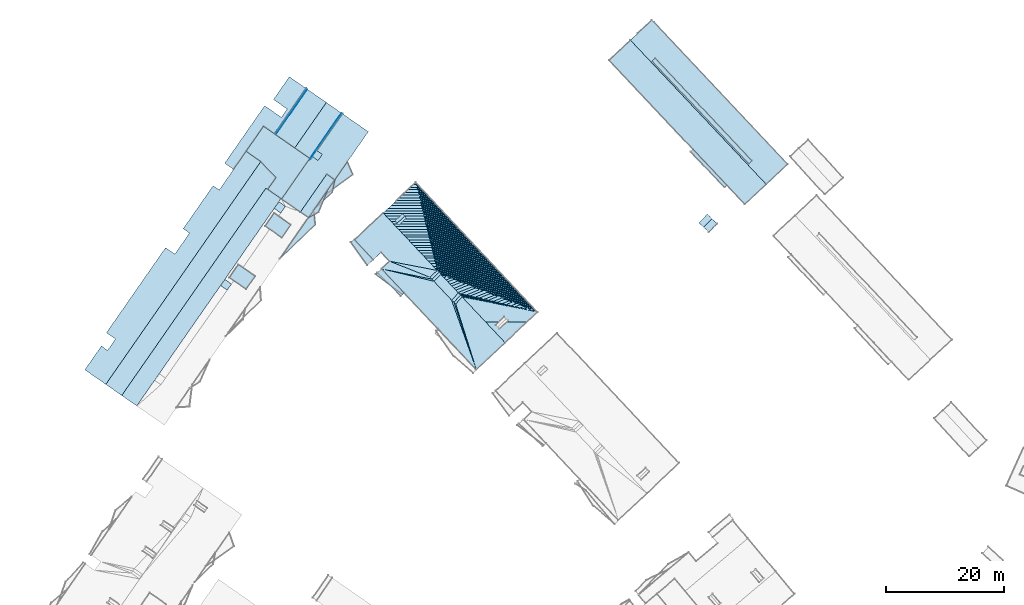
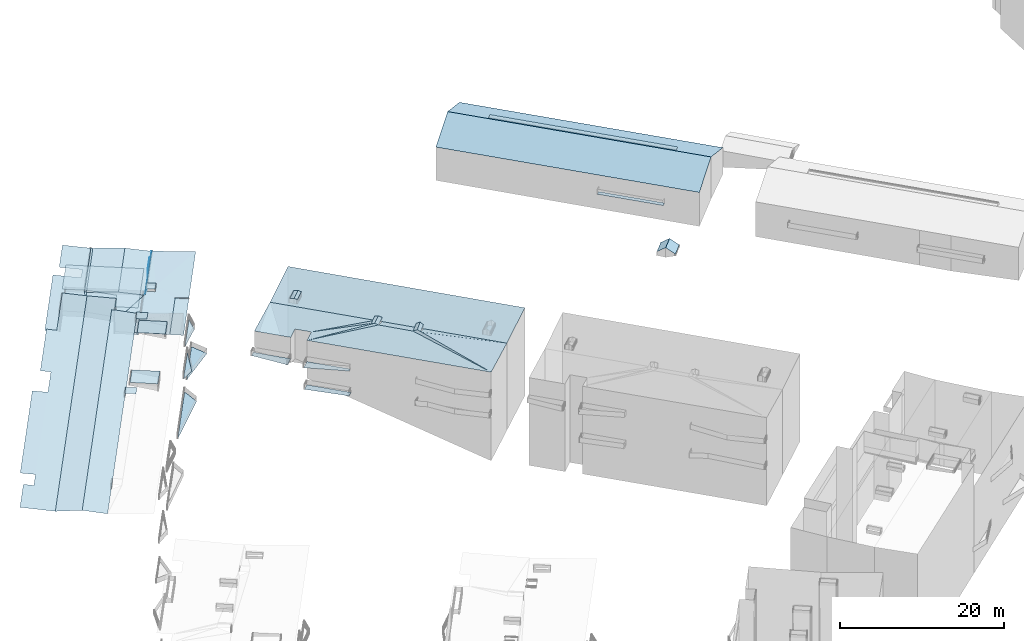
# Not in any storey, part 131 of 136: 73 roofs.
"""IFC4 building model written with IfcOpenShell, lengths in metres."""

from ifc_helpers import new_model, entity, si_unit, converted_unit, frame, origin, place, context, subcontext, project, spatial, face_set, surface_model, element, save


model = new_model("IFC4")

# Units and contexts
model_context = context("Model", 3, precision=1e-05, world=origin())
body_context = subcontext(model_context, "Body", "Model", "MODEL_VIEW")
ifc_project = project(units=[converted_unit("PLANEANGLEUNIT", "DEGREE", entity("IfcRatioMeasure", 0.0174532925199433), si_unit("PLANEANGLEUNIT", "RADIAN"), dimensions=[0, 0, 0, 0, 0, 0, 0]), si_unit("AREAUNIT", "SQUARE_METRE"), si_unit("LENGTHUNIT", "METRE")], contexts=[model_context])

# Site, building
site_placement = place(None, origin())
site = spatial("IfcSite", under=ifc_project, at=site_placement, Name="_site")
building_1_placement = place(site_placement, origin())
building_1 = spatial("IfcBuilding", under=site, at=building_1_placement, Name="_building")

# Roofs
roof_1_placement = place(building_1_placement, origin())
element("IfcRoof", 1, at=roof_1_placement, inside=building_1, Name="Roof", PredefinedType="NOTDEFINED", context=body_context, shape_type="SurfaceModel", body=[
    surface_model("IfcFaceBasedSurfaceModel", [(52.76, 147.43, 42.19), (52.36, 147.04, 42.19), (58.08, 140.97, 42.19), (58.49, 141.351, 42.19)], [face_set([[[0, 1, 2, 3]]])]),
])
roof_2_placement = place(building_1_placement, origin())
element("IfcRoof", 2, at=roof_2_placement, inside=building_1, Name="Roof", PredefinedType="NOTDEFINED", context=body_context, shape_type="SurfaceModel", body=[
    surface_model("IfcFaceBasedSurfaceModel", [(42.18, 165.851, 46.62), (38.59, 162.47, 44.65), (61.53, 138.12, 44.65), (65.12, 141.5, 46.62)], [face_set([[[0, 1, 2, 3]]])]),
])
roof_3_placement = place(building_1_placement, origin())
element("IfcRoof", 3, at=roof_3_placement, inside=building_1, Name="Roof", PredefinedType="NOTDEFINED", context=body_context, shape_type="SurfaceModel", body=[
    surface_model("IfcFaceBasedSurfaceModel", [(65.12, 141.5, 46.62), (68.75, 144.92, 44.65), (46.2, 168.86, 44.65), (45.81, 169.271, 44.65), (43.44, 167.04, 45.93), (42.18, 165.851, 46.62)], [face_set([[[0, 1, 2, 3, 4, 5]]])]),
])
roof_4_placement = place(building_1_placement, origin())
element("IfcRoof", 4, at=roof_4_placement, inside=building_1, Name="Roof", PredefinedType="NOTDEFINED", context=body_context, shape_type="SurfaceModel", body=[
    surface_model("IfcFaceBasedSurfaceModel", [(42.18, 165.851, 46.62), (38.59, 162.47, 44.65), (61.53, 138.12, 44.65), (65.12, 141.5, 46.62)], [face_set([[[0, 1, 2, 3]]])]),
])
roof_5_placement = place(building_1_placement, origin())
element("IfcRoof", 5, at=roof_5_placement, inside=building_1, Name="Roof", PredefinedType="NOTDEFINED", context=body_context, shape_type="SurfaceModel", body=[
    surface_model("IfcFaceBasedSurfaceModel", [(65.12, 141.5, 46.62), (68.75, 144.92, 44.65), (46.2, 168.86, 44.65), (45.81, 169.271, 44.65), (43.44, 167.04, 45.93), (42.18, 165.851, 46.62)], [face_set([[[0, 1, 2, 3, 4, 5]]])]),
])
for number, where, name in (
    (6, (0.0, 0.0, 0.0), "Roof"),
    (7, (0.0, 0.0, 0.0), "Roof"),
):
    element("IfcRoof", number, at=place(building_1_placement, frame(where)), inside=building_1, Name=name, PredefinedType="NOTDEFINED", context=body_context, shape_type="SurfaceModel", body=[
        surface_model("IfcFaceBasedSurfaceModel", [(46.37, 162.83, 46.55), (45.84, 162.33, 46.521), (62.2, 144.96, 46.522), (62.73, 145.46, 46.55)], [face_set([[[0, 1, 2, 3]]])]),
    ])
roof_6_placement = place(building_1_placement, origin())
element("IfcRoof", 8, at=roof_6_placement, inside=building_1, Name="Roof", PredefinedType="NOTDEFINED", context=body_context, shape_type="SurfaceModel", body=[
    surface_model("IfcFaceBasedSurfaceModel", [(52.76, 147.43, 42.19), (52.36, 147.04, 42.19), (58.08, 140.97, 42.19), (58.49, 141.351, 42.19)], [face_set([[[0, 1, 2, 3]]])]),
])

# Building
building_2_placement = place(site_placement, origin())
building_2 = spatial("IfcBuilding", under=site, at=building_2_placement, Name="_building")

# Roofs
for number, where, name in (
    (9, (0.0, 0.0, 0.0), "Roof"),
    (10, (0.0, 0.0, 0.0), "Roof"),
):
    element("IfcRoof", number, at=place(building_2_placement, frame(where)), inside=building_2, Name=name, PredefinedType="NOTDEFINED", context=body_context, shape_type="SurfaceModel", body=[
        surface_model("IfcFaceBasedSurfaceModel", [(55.94, 135.7, 41.24), (55.14, 136.45, 40.48), (53.81, 135.05, 40.48), (53.76, 135.0, 40.48), (54.55, 134.24, 41.24)], [face_set([[[0, 1, 2, 3, 4]]])]),
    ])
for number, where, name in (
    (11, (0.0, 0.0, 0.0), "Roof"),
    (12, (0.0, 0.0, 0.0), "Roof"),
):
    element("IfcRoof", number, at=place(building_2_placement, frame(where)), inside=building_2, Name=name, PredefinedType="NOTDEFINED", context=body_context, shape_type="SurfaceModel", body=[
        surface_model("IfcFaceBasedSurfaceModel", [(54.55, 134.24, 41.24), (55.44, 133.4, 40.48), (56.82, 134.86, 40.48), (55.94, 135.7, 41.24)], [face_set([[[0, 1, 2, 3]]])]),
    ])

# Building
building_3_placement = place(site_placement, origin())
building_3 = spatial("IfcBuilding", under=site, at=building_3_placement, Name="_building")

# Roofs
roof_7_placement = place(building_3_placement, origin())
element("IfcRoof", 13, at=roof_7_placement, inside=building_3, Name="Roof", PredefinedType="NOTDEFINED", context=body_context, shape_type="SurfaceModel", body=[
    surface_model("IfcFaceBasedSurfaceModel", [(20.99, 114.73, 50.65), (26.5, 119.91, 50.83), (5.89, 141.84, 50.89), (0.38, 136.65, 50.65), (9.5, 126.95, 50.65), (9.8, 126.63, 50.65), (9.962, 126.459, 50.65), (10.14, 126.271, 50.65), (13.088, 123.138, 50.65), (13.44, 122.76, 50.65), (13.728, 122.458, 50.65)], [face_set([[[0, 1, 2, 3, 4, 5, 6, 7, 8, 9, 10]]])]),
])
for number, where, name in (
    (14, (0.0, 0.0, 0.0), "Roof"),
    (15, (0.0, 0.0, 0.0), "Roof"),
):
    element("IfcRoof", number, at=place(building_3_placement, frame(where)), inside=building_3, Name=name, PredefinedType="NOTDEFINED", context=body_context, shape_type="SurfaceModel", body=[
        surface_model("IfcFaceBasedSurfaceModel", [(13.728, 122.458, 50.65), (12.64, 121.28, 51.25), (12.34, 121.561, 51.55), (11.95, 121.91, 51.25), (13.088, 123.138, 50.65), (10.14, 126.271, 50.65), (8.96, 125.11, 51.27), (8.61, 125.47, 51.42), (8.31, 125.78, 51.32), (9.5, 126.95, 50.65), (0.38, 136.65, 50.65), (-4.44, 132.12, 50.8), (-1.28, 128.75, 50.8), (0.05, 130.0, 50.8), (1.47, 128.5, 50.8), (0.11, 127.22, 50.8), (16.14, 110.17, 50.8), (20.99, 114.73, 50.65)], [face_set([[[0, 1, 2, 3, 4, 5, 6, 7, 8, 9, 10, 11, 12, 13, 14, 15, 16, 17]]])]),
    ])
roof_8_placement = place(building_3_placement, origin())
element("IfcRoof", 16, at=roof_8_placement, inside=building_3, Name="Roof", PredefinedType="NOTDEFINED", context=body_context, shape_type="SurfaceModel", body=[
    surface_model("IfcFaceBasedSurfaceModel", [(-1.28, 128.75, 47.63), (-4.44, 132.12, 47.63), (-4.54, 132.22, 47.63), (-5.07, 131.7, 47.63), (-2.28, 127.83, 47.63)], [face_set([[[0, 1, 2, 3, 4]]])]),
])
roof_9_placement = place(building_3_placement, origin())
element("IfcRoof", 17, at=roof_9_placement, inside=building_3, Name="Roof", PredefinedType="NOTDEFINED", context=body_context, shape_type="SurfaceModel", body=[
    surface_model("IfcFaceBasedSurfaceModel", [(3.95, 123.13, 44.2), (0.11, 127.22, 44.2), (-0.61, 126.54, 44.2), (3.38, 122.62, 44.2)], [face_set([[[0, 1, 2, 3]]])]),
])
roof_10_placement = place(building_3_placement, origin())
element("IfcRoof", 18, at=roof_10_placement, inside=building_3, Name="Roof", PredefinedType="NOTDEFINED", context=body_context, shape_type="SurfaceModel", body=[
    surface_model("IfcFaceBasedSurfaceModel", [(2.74, 134.92, 51.44), (4.01, 136.13, 51.44), (3.64, 136.521, 51.32), (2.37, 135.32, 51.32)], [face_set([[[0, 1, 2, 3]]])]),
])
roof_11_placement = place(building_3_placement, origin())
element("IfcRoof", 19, at=roof_11_placement, inside=building_3, Name="Roof", PredefinedType="NOTDEFINED", context=body_context, shape_type="SurfaceModel", body=[
    surface_model("IfcFaceBasedSurfaceModel", [(-1.28, 128.75, 47.63), (-4.44, 132.12, 47.63), (-4.54, 132.22, 47.63), (-5.07, 131.7, 47.63), (-2.28, 127.83, 47.63)], [face_set([[[0, 1, 2, 3, 4]]])]),
])
for number, where, name in (
    (20, (0.0, 0.0, 0.0), "Roof"),
    (21, (0.0, 0.0, 0.0), "Roof"),
):
    element("IfcRoof", number, at=place(building_3_placement, frame(where)), inside=building_3, Name=name, PredefinedType="NOTDEFINED", context=body_context, shape_type="SurfaceModel", body=[
        surface_model("IfcFaceBasedSurfaceModel", [(2.74, 134.92, 51.44), (3.04, 134.61, 51.34), (4.31, 135.811, 51.34), (4.01, 136.13, 51.44)], [face_set([[[0, 1, 2, 3]]])]),
    ])
for number, where, name in (
    (22, (0.0, 0.0, 0.0), "Roof"),
    (23, (0.0, 0.0, 0.0), "Roof"),
):
    element("IfcRoof", number, at=place(building_3_placement, frame(where)), inside=building_3, Name=name, PredefinedType="NOTDEFINED", context=body_context, shape_type="SurfaceModel", body=[
        surface_model("IfcFaceBasedSurfaceModel", [(3.57, 122.9, 47.65), (3.87, 123.22, 47.65), (0.11, 127.22, 47.65), (-0.87, 126.28, 47.65)], [face_set([[[0, 1, 2, 3]]])]),
    ])
roof_12_placement = place(building_3_placement, origin())
element("IfcRoof", 24, at=roof_12_placement, inside=building_3, Name="Roof", PredefinedType="NOTDEFINED", context=body_context, shape_type="SurfaceModel", body=[
    surface_model("IfcFaceBasedSurfaceModel", [(3.95, 123.13, 44.2), (0.11, 127.22, 44.2), (-0.61, 126.54, 44.2), (3.38, 122.62, 44.2)], [face_set([[[0, 1, 2, 3]]])]),
])
for number, where, name in (
    (25, (0.0, 0.0, 0.0), "Roof"),
    (26, (0.0, 0.0, 0.0), "Roof"),
):
    element("IfcRoof", number, at=place(building_3_placement, frame(where)), inside=building_3, Name=name, PredefinedType="NOTDEFINED", context=body_context, shape_type="SurfaceModel", body=[
        surface_model("IfcFaceBasedSurfaceModel", [(13.088, 123.138, 51.25), (11.95, 121.91, 51.25), (12.34, 121.561, 51.55), (13.44, 122.76, 51.55)], [face_set([[[0, 1, 2, 3]]])]),
    ])
roof_13_placement = place(building_3_placement, origin())
element("IfcRoof", 27, at=roof_13_placement, inside=building_3, Name="Roof", PredefinedType="NOTDEFINED", context=body_context, shape_type="SurfaceModel", body=[
    surface_model("IfcFaceBasedSurfaceModel", [(2.74, 134.92, 51.44), (4.01, 136.13, 51.44), (3.64, 136.521, 51.32), (2.37, 135.32, 51.32)], [face_set([[[0, 1, 2, 3]]])]),
])
for number, where, name in (
    (28, (0.0, 0.0, 0.0), "Roof"),
    (29, (0.0, 0.0, 0.0), "Roof"),
):
    element("IfcRoof", number, at=place(building_3_placement, frame(where)), inside=building_3, Name=name, PredefinedType="NOTDEFINED", context=body_context, shape_type="SurfaceModel", body=[
        surface_model("IfcFaceBasedSurfaceModel", [(13.44, 122.76, 51.55), (12.34, 121.561, 51.55), (12.64, 121.28, 51.25), (13.728, 122.458, 51.25)], [face_set([[[0, 1, 2, 3]]])]),
    ])
for number, where, name in (
    (30, (0.0, 0.0, 0.0), "Roof"),
    (31, (0.0, 0.0, 0.0), "Roof"),
):
    element("IfcRoof", number, at=place(building_3_placement, frame(where)), inside=building_3, Name=name, PredefinedType="NOTDEFINED", context=body_context, shape_type="SurfaceModel", body=[
        surface_model("IfcFaceBasedSurfaceModel", [(9.5, 126.95, 51.32), (8.31, 125.78, 51.32), (8.61, 125.47, 51.42), (9.8, 126.63, 51.42)], [face_set([[[0, 1, 2, 3]]])]),
    ])
for number, where, name in (
    (32, (0.0, 0.0, 0.0), "Roof"),
    (33, (0.0, 0.0, 0.0), "Roof"),
):
    element("IfcRoof", number, at=place(building_3_placement, frame(where)), inside=building_3, Name=name, PredefinedType="NOTDEFINED", context=body_context, shape_type="SurfaceModel", body=[
        surface_model("IfcFaceBasedSurfaceModel", [(9.8, 126.63, 51.42), (8.61, 125.47, 51.42), (8.96, 125.11, 51.27), (10.14, 126.271, 51.27), (9.962, 126.459, 51.348)], [face_set([[[0, 1, 2, 3, 4]]])]),
    ])
roof_14_placement = place(building_3_placement, origin())
element("IfcRoof", 34, at=roof_14_placement, inside=building_3, Name="Roof", PredefinedType="NOTDEFINED", context=body_context, shape_type="SurfaceModel", body=[
    surface_model("IfcFaceBasedSurfaceModel", [(20.99, 114.73, 50.65), (26.5, 119.91, 50.83), (5.89, 141.84, 50.89), (0.38, 136.65, 50.65), (9.5, 126.95, 50.65), (9.8, 126.63, 50.65), (9.962, 126.459, 50.65), (10.14, 126.271, 50.65), (13.088, 123.138, 50.65), (13.44, 122.76, 50.65), (13.728, 122.458, 50.65)], [face_set([[[0, 1, 2, 3, 4, 5, 6, 7, 8, 9, 10]]])]),
])

# Building
building_4_placement = place(site_placement, origin())
building_4 = spatial("IfcBuilding", under=site, at=building_4_placement, Name="_building")

# Roofs
for number, where, name in (
    (35, (0.0, 0.0, 0.0), "Roof"),
    (36, (0.0, 0.0, 0.0), "Roof"),
):
    element("IfcRoof", number, at=place(building_4_placement, frame(where)), inside=building_4, Name=name, PredefinedType="NOTDEFINED", context=body_context, shape_type="SurfaceModel", body=[
        surface_model("IfcFaceBasedSurfaceModel", [(-14.571, 147.639, 50.72), (-12.02, 145.86, 50.47), (-6.67, 153.55, 50.47), (-9.22, 155.33, 50.72)], [face_set([[[0, 1, 2, 3]]])]),
    ])
for number, where, name in (
    (37, (0.0, 0.0, 0.0), "Roof"),
    (38, (0.0, 0.0, 0.0), "Roof"),
):
    element("IfcRoof", number, at=place(building_4_placement, frame(where)), inside=building_4, Name=name, PredefinedType="NOTDEFINED", context=body_context, shape_type="SurfaceModel", body=[
        surface_model("IfcFaceBasedSurfaceModel", [(-20.31, 145.34, 53.58), (-22.79, 147.07, 53.83), (-24.9, 144.03, 53.83), (-27.33, 140.54, 53.83), (-28.36, 141.26, 53.93), (-33.42, 133.99, 53.93), (-32.36, 133.25, 53.83), (-34.83, 129.7, 53.83), (-36.4, 130.79, 53.93), (-46.39, 116.42, 53.93), (-44.86, 115.36, 53.83), (-46.2, 113.43, 53.83), (-47.25, 114.16, 53.93), (-50.04, 110.15, 53.93), (-46.5, 107.69, 53.58)], [face_set([[[0, 1, 2, 3, 4, 5, 6, 7, 8, 9, 10, 11, 12, 13, 14]]])]),
    ])
for number, where, name in (
    (39, (0.0, 0.0, 0.0), "Roof"),
    (40, (0.0, 0.0, 0.0), "Roof"),
):
    element("IfcRoof", number, at=place(building_4_placement, frame(where)), inside=building_4, Name=name, PredefinedType="NOTDEFINED", context=body_context, shape_type="SurfaceModel", body=[
        surface_model("IfcFaceBasedSurfaceModel", [(-46.5, 107.69, 53.58), (-43.81, 105.811, 53.93), (-19.44, 140.851, 53.93), (-19.13, 140.63, 53.93), (-17.73, 142.64, 53.93), (-20.31, 145.34, 53.58)], [face_set([[[0, 1, 2, 3, 4, 5]]])]),
    ])
roof_15_placement = place(building_4_placement, origin())
element("IfcRoof", 41, at=roof_15_placement, inside=building_4, Name="Roof", PredefinedType="NOTDEFINED", context=body_context, shape_type="SurfaceModel", body=[
    surface_model("IfcFaceBasedSurfaceModel", [(-11.83, 145.73, 50.676), (-12.02, 145.86, 50.47), (-14.571, 147.639, 50.72), (-17.78, 149.87, 50.47), (-17.98, 150.01, 50.676), (-12.63, 157.7, 50.47), (-15.48, 159.68, 50.72), (-18.16, 155.83, 50.72), (-15.84, 154.22, 50.52), (-16.82, 152.811, 50.52), (-19.65, 154.78, 50.72), (-26.4, 145.07, 50.72), (-24.9, 144.03, 50.64), (-22.79, 147.07, 50.64), (-20.31, 145.34, 50.72), (-17.73, 142.64, 50.72), (-19.13, 140.63, 50.72), (-16.89, 139.07, 50.687), (-13.62, 136.8, 50.64), (-9.17, 143.2, 50.64), (-7.79, 142.25, 50.72), (-2.13, 150.39, 50.72), (-6.48, 153.42, 50.47), (-10.82, 147.18, 50.676), (-9.91, 146.55, 50.676), (-10.63, 145.521, 50.676), (-11.533, 146.152, 50.676)], [face_set([[[0, 1, 2, 3, 4, 5, 6, 7, 8, 9, 10, 11, 12, 13, 14, 15, 16, 17, 18, 19, 20, 21, 22, 23, 24, 25, 26]]])]),
])
for number, where, name in (
    (42, (0.0, 0.0, 0.0), "Roof"),
    (43, (0.0, 0.0, 0.0), "Roof"),
):
    element("IfcRoof", number, at=place(building_4_placement, frame(where)), inside=building_4, Name=name, PredefinedType="NOTDEFINED", context=body_context, shape_type="SurfaceModel", body=[
        surface_model("IfcFaceBasedSurfaceModel", [(-20.31, 145.34, 50.39), (-17.73, 142.64, 50.39), (-19.13, 140.63, 50.39), (-16.79, 139.01, 50.39), (-12.02, 145.86, 50.39), (-19.84, 151.3, 50.39), (-22.79, 147.07, 50.39)], [face_set([[[0, 1, 2, 3, 4, 5, 6]]])]),
    ])
roof_16_placement = place(building_4_placement, origin())
element("IfcRoof", 44, at=roof_16_placement, inside=building_4, Name="Roof", PredefinedType="NOTDEFINED", context=body_context, shape_type="SurfaceModel", body=[
    surface_model("IfcFaceBasedSurfaceModel", [(-13.62, 136.8, 50.64), (-12.24, 135.84, 50.64), (-7.79, 142.25, 50.64), (-9.17, 143.2, 50.64)], [face_set([[[0, 1, 2, 3]]])]),
])
roof_17_placement = place(building_4_placement, origin())
element("IfcRoof", 45, at=roof_17_placement, inside=building_4, Name="Roof", PredefinedType="NOTDEFINED", context=body_context, shape_type="SurfaceModel", body=[
    surface_model("IfcFaceBasedSurfaceModel", [(-17.98, 150.01, 50.47), (-17.78, 149.87, 50.47), (-12.43, 157.561, 50.47), (-12.63, 157.7, 50.47)], [face_set([[[0, 1, 2, 3]]])]),
])
for number, where, name in (
    (46, (0.0, 0.0, 0.0), "Roof"),
    (47, (0.0, 0.0, 0.0), "Roof"),
):
    element("IfcRoof", number, at=place(building_4_placement, frame(where)), inside=building_4, Name=name, PredefinedType="NOTDEFINED", context=body_context, shape_type="SurfaceModel", body=[
        surface_model("IfcFaceBasedSurfaceModel", [(-8.24, 140.12, 47.57), (-7.75, 142.311, 47.57), (-8.97, 140.561, 47.57), (-11.12, 137.45, 47.57)], [face_set([[[0, 1, 2, 3]]])]),
    ])
for number, where, name in (
    (48, (0.0, 0.0, 0.0), "Roof"),
    (49, (0.0, 0.0, 0.0), "Roof"),
):
    element("IfcRoof", number, at=place(building_4_placement, frame(where)), inside=building_4, Name=name, PredefinedType="NOTDEFINED", context=body_context, shape_type="SurfaceModel", body=[
        surface_model("IfcFaceBasedSurfaceModel", [(-22.79, 123.76, 54.46), (-21.25, 125.96, 54.46), (-24.08, 127.94, 54.46), (-25.62, 125.73, 54.46)], [face_set([[[0, 1, 2, 3]]])]),
    ])
for number, where, name in (
    (50, (0.0, 0.0, 0.0), "Roof"),
    (51, (0.0, 0.0, 0.0), "Roof"),
):
    element("IfcRoof", number, at=place(building_4_placement, frame(where)), inside=building_4, Name=name, PredefinedType="NOTDEFINED", context=body_context, shape_type="SurfaceModel", body=[
        surface_model("IfcFaceBasedSurfaceModel", [(-16.73, 132.46, 54.46), (-15.22, 134.64, 54.46), (-18.05, 136.61, 54.46), (-19.57, 134.43, 54.46)], [face_set([[[0, 1, 2, 3]]])]),
    ])
roof_18_placement = place(building_4_placement, origin())
element("IfcRoof", 52, at=roof_18_placement, inside=building_4, Name="Roof", PredefinedType="NOTDEFINED", context=body_context, shape_type="SurfaceModel", body=[
    surface_model("IfcFaceBasedSurfaceModel", [(-11.533, 146.152, 51.08), (-10.63, 145.521, 51.08), (-9.91, 146.55, 51.08), (-10.82, 147.18, 51.08)], [face_set([[[0, 1, 2, 3]]])]),
])
for number, where, name in (
    (53, (0.0, 0.0, 0.0), "Roof"),
    (54, (0.0, 0.0, 0.0), "Roof"),
):
    element("IfcRoof", number, at=place(building_4_placement, frame(where)), inside=building_4, Name=name, PredefinedType="NOTDEFINED", context=body_context, shape_type="SurfaceModel", body=[
        surface_model("IfcFaceBasedSurfaceModel", [(-5.66, 145.311, 40.91), (-7.75, 142.311, 40.91), (-8.97, 140.561, 40.91), (-9.7, 139.51, 40.91), (-4.73, 143.14, 40.91)], [face_set([[[0, 1, 2, 3, 4]]])]),
    ])
roof_19_placement = place(building_4_placement, origin())
element("IfcRoof", 55, at=roof_19_placement, inside=building_4, Name="Roof", PredefinedType="NOTDEFINED", context=body_context, shape_type="SurfaceModel", body=[
    surface_model("IfcFaceBasedSurfaceModel", [(-13.62, 136.8, 50.64), (-12.24, 135.84, 50.64), (-7.79, 142.25, 50.64), (-9.17, 143.2, 50.64)], [face_set([[[0, 1, 2, 3]]])]),
])
for number, where, name in (
    (56, (0.0, 0.0, 0.0), "Roof"),
    (57, (0.0, 0.0, 0.0), "Roof"),
):
    element("IfcRoof", number, at=place(building_4_placement, frame(where)), inside=building_4, Name=name, PredefinedType="NOTDEFINED", context=body_context, shape_type="SurfaceModel", body=[
        surface_model("IfcFaceBasedSurfaceModel", [(-27.11, 124.38, 54.2), (-25.99, 123.601, 54.2), (-25.25, 124.65, 54.2), (-26.373, 125.432, 54.2)], [face_set([[[0, 1, 2, 3]]])]),
    ])
roof_20_placement = place(building_4_placement, origin())
element("IfcRoof", 58, at=roof_20_placement, inside=building_4, Name="Roof", PredefinedType="NOTDEFINED", context=body_context, shape_type="SurfaceModel", body=[
    surface_model("IfcFaceBasedSurfaceModel", [(-19.44, 140.851, 53.93), (-43.81, 105.811, 53.93), (-41.26, 104.04, 53.58), (-38.249, 108.369, 53.58), (-37.463, 109.492, 53.58), (-27.11, 124.38, 53.58), (-26.373, 125.432, 53.58), (-18.039, 137.419, 53.58), (-17.248, 138.56, 53.58), (-16.89, 139.07, 53.58), (-19.13, 140.63, 53.93)], [face_set([[[0, 1, 2, 3, 4, 5, 6, 7, 8, 9, 10]]])]),
])
for number, where, name in (
    (59, (0.0, 0.0, 0.0), "Roof"),
    (60, (0.0, 0.0, 0.0), "Roof"),
):
    element("IfcRoof", number, at=place(building_4_placement, frame(where)), inside=building_4, Name=name, PredefinedType="NOTDEFINED", context=body_context, shape_type="SurfaceModel", body=[
        surface_model("IfcFaceBasedSurfaceModel", [(-10.54, 136.79, 44.17), (-8.97, 140.561, 44.17), (-11.34, 137.15, 44.17), (-12.24, 135.84, 44.17)], [face_set([[[0, 1, 2, 3]]])]),
    ])
roof_21_placement = place(building_4_placement, origin())
element("IfcRoof", 61, at=roof_21_placement, inside=building_4, Name="Roof", PredefinedType="NOTDEFINED", context=body_context, shape_type="SurfaceModel", body=[
    surface_model("IfcFaceBasedSurfaceModel", [(-19.44, 140.851, 53.93), (-43.81, 105.811, 53.93), (-41.26, 104.04, 53.58), (-38.249, 108.369, 53.58), (-37.463, 109.492, 53.58), (-27.11, 124.38, 53.58), (-26.373, 125.432, 53.58), (-18.039, 137.419, 53.58), (-17.248, 138.56, 53.58), (-16.89, 139.07, 53.58), (-19.13, 140.63, 53.93)], [face_set([[[0, 1, 2, 3, 4, 5, 6, 7, 8, 9, 10]]])]),
])
for number, where, name in (
    (62, (0.0, 0.0, 0.0), "Roof"),
    (63, (0.0, 0.0, 0.0), "Roof"),
):
    element("IfcRoof", number, at=place(building_4_placement, frame(where)), inside=building_4, Name=name, PredefinedType="NOTDEFINED", context=body_context, shape_type="SurfaceModel", body=[
        surface_model("IfcFaceBasedSurfaceModel", [(-17.06, 128.92, 41.15), (-11.08, 134.68, 41.15), (-11.34, 137.15, 41.15)], [face_set([[[0, 1, 2]]])]),
    ])
roof_22_placement = place(building_4_placement, origin())
element("IfcRoof", 64, at=roof_22_placement, inside=building_4, Name="Roof", PredefinedType="NOTDEFINED", context=body_context, shape_type="SurfaceModel", body=[
    surface_model("IfcFaceBasedSurfaceModel", [(-20.31, 145.34, 54.39), (-17.73, 142.64, 54.39), (-19.13, 140.63, 54.39), (-16.79, 139.01, 54.39), (-12.02, 145.86, 54.39), (-19.84, 151.3, 54.39), (-22.79, 147.07, 54.39)], [face_set([[[0, 1, 2, 3, 4, 5, 6]]])]),
])
for number, where, name in (
    (65, (0.0, 0.0, 0.0), "Roof"),
    (66, (0.0, 0.0, 0.0), "Roof"),
):
    element("IfcRoof", number, at=place(building_4_placement, frame(where)), inside=building_4, Name=name, PredefinedType="NOTDEFINED", context=body_context, shape_type="SurfaceModel", body=[
        surface_model("IfcFaceBasedSurfaceModel", [(-17.78, 149.87, 50.47), (-14.571, 147.639, 50.72), (-9.22, 155.33, 50.72), (-12.43, 157.561, 50.47)], [face_set([[[0, 1, 2, 3]]])]),
    ])
roof_23_placement = place(building_4_placement, origin())
element("IfcRoof", 67, at=roof_23_placement, inside=building_4, Name="Roof", PredefinedType="NOTDEFINED", context=body_context, shape_type="SurfaceModel", body=[
    surface_model("IfcFaceBasedSurfaceModel", [(-17.98, 150.01, 50.47), (-17.78, 149.87, 50.47), (-12.43, 157.561, 50.47), (-12.63, 157.7, 50.47)], [face_set([[[0, 1, 2, 3]]])]),
])
roof_24_placement = place(building_4_placement, origin())
element("IfcRoof", 68, at=roof_24_placement, inside=building_4, Name="Roof", PredefinedType="NOTDEFINED", context=body_context, shape_type="SurfaceModel", body=[
    surface_model("IfcFaceBasedSurfaceModel", [(-11.83, 145.73, 50.676), (-12.02, 145.86, 50.47), (-14.571, 147.639, 50.72), (-17.78, 149.87, 50.47), (-17.98, 150.01, 50.676), (-12.63, 157.7, 50.47), (-15.48, 159.68, 50.72), (-18.16, 155.83, 50.72), (-15.84, 154.22, 50.52), (-16.82, 152.811, 50.52), (-19.65, 154.78, 50.72), (-26.4, 145.07, 50.72), (-24.9, 144.03, 50.64), (-22.79, 147.07, 50.64), (-20.31, 145.34, 50.72), (-17.73, 142.64, 50.72), (-19.13, 140.63, 50.72), (-16.89, 139.07, 50.687), (-13.62, 136.8, 50.64), (-9.17, 143.2, 50.64), (-7.79, 142.25, 50.72), (-2.13, 150.39, 50.72), (-6.48, 153.42, 50.47), (-10.82, 147.18, 50.676), (-9.91, 146.55, 50.676), (-10.63, 145.521, 50.676), (-11.533, 146.152, 50.676)], [face_set([[[0, 1, 2, 3, 4, 5, 6, 7, 8, 9, 10, 11, 12, 13, 14, 15, 16, 17, 18, 19, 20, 21, 22, 23, 24, 25, 26]]])]),
])
roof_25_placement = place(building_4_placement, origin())
element("IfcRoof", 69, at=roof_25_placement, inside=building_4, Name="Roof", PredefinedType="NOTDEFINED", context=body_context, shape_type="SurfaceModel", body=[
    surface_model("IfcFaceBasedSurfaceModel", [(-11.533, 146.152, 51.08), (-10.63, 145.521, 51.08), (-9.91, 146.55, 51.08), (-10.82, 147.18, 51.08)], [face_set([[[0, 1, 2, 3]]])]),
])
for number, where, name in (
    (70, (0.0, 0.0, 0.0), "Roof"),
    (71, (0.0, 0.0, 0.0), "Roof"),
):
    element("IfcRoof", number, at=place(building_4_placement, frame(where)), inside=building_4, Name=name, PredefinedType="NOTDEFINED", context=body_context, shape_type="SurfaceModel", body=[
        surface_model("IfcFaceBasedSurfaceModel", [(-18.039, 137.419, 54.2), (-16.92, 136.64, 54.2), (-16.13, 137.78, 54.2), (-17.248, 138.56, 54.2)], [face_set([[[0, 1, 2, 3]]])]),
    ])
for number, where, name in (
    (72, (0.0, 0.0, 0.0), "Roof"),
    (73, (0.0, 0.0, 0.0), "Roof"),
):
    element("IfcRoof", number, at=place(building_4_placement, frame(where)), inside=building_4, Name=name, PredefinedType="NOTDEFINED", context=body_context, shape_type="SurfaceModel", body=[
        surface_model("IfcFaceBasedSurfaceModel", [(-12.02, 145.86, 50.47), (-11.83, 145.73, 50.47), (-11.533, 146.152, 50.47), (-10.82, 147.18, 50.47), (-6.48, 153.42, 50.47), (-6.67, 153.55, 50.47)], [face_set([[[0, 1, 2, 3, 4, 5]]])]),
    ])

save(model, "model.ifc")
